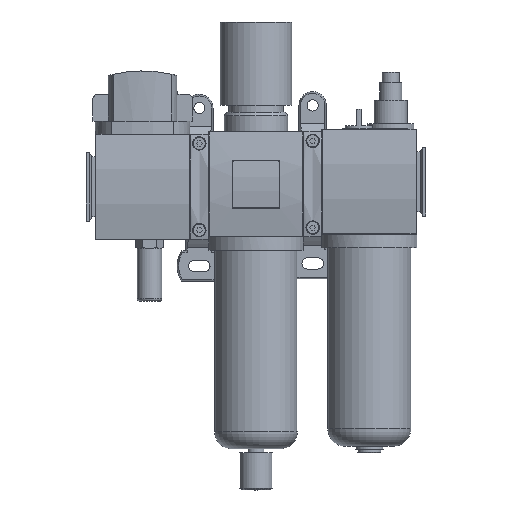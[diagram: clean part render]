
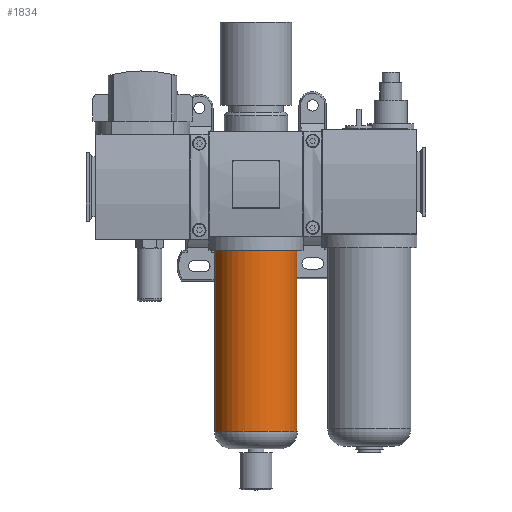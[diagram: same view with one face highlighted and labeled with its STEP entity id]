
A CAD part, top view. The second image highlights one B-rep face of the part: STEP entity #1834.
In plain terms, the highlighted cylindrical face has radius 24.25 mm (diameter 48.5 mm), a full revolution.
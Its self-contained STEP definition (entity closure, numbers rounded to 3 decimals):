
#1834 = ADVANCED_FACE( '', ( #3769, #3770 ), #3771, .T. );
#3769 = FACE_OUTER_BOUND( '', #5923, .T. );
#3770 = FACE_OUTER_BOUND( '', #5924, .T. );
#3771 = CYLINDRICAL_SURFACE( '', #5925, 24.25 );
#5923 = EDGE_LOOP( '', ( #10310 ) );
#5924 = EDGE_LOOP( '', ( #10311 ) );
#5925 = AXIS2_PLACEMENT_3D( '', #10312, #10313, #10314 );
#10310 = ORIENTED_EDGE( '', *, *, #12853, .F. );
#10311 = ORIENTED_EDGE( '', *, *, #13880, .T. );
#10312 = CARTESIAN_POINT( '', ( 0., -115.5, 0. ) );
#10313 = DIRECTION( '', ( 0., 1., 0. ) );
#10314 = DIRECTION( '', ( 0., 0., -1. ) );
#12853 = EDGE_CURVE( '', #15346, #15346, #15347, .T. );
#13880 = EDGE_CURVE( '', #16931, #16931, #16932, .T. );
#15346 = VERTEX_POINT( '', #18985 );
#15347 = CIRCLE( '', #18986, 24.25 );
#16931 = VERTEX_POINT( '', #21384 );
#16932 = CIRCLE( '', #21385, 24.25 );
#18985 = CARTESIAN_POINT( '', ( 0., -105.5, -24.25 ) );
#18986 = AXIS2_PLACEMENT_3D( '', #23113, #23114, #23115 );
#21384 = CARTESIAN_POINT( '', ( 0., 0., -24.25 ) );
#21385 = AXIS2_PLACEMENT_3D( '', #24099, #24100, #24101 );
#23113 = CARTESIAN_POINT( '', ( 0., -105.5, 0. ) );
#23114 = DIRECTION( '', ( 0., -1., 0. ) );
#23115 = DIRECTION( '', ( 0., 0., -1. ) );
#24099 = CARTESIAN_POINT( '', ( 0., 0., 0. ) );
#24100 = DIRECTION( '', ( 0., -1., 0. ) );
#24101 = DIRECTION( '', ( 0., 0., -1. ) );
